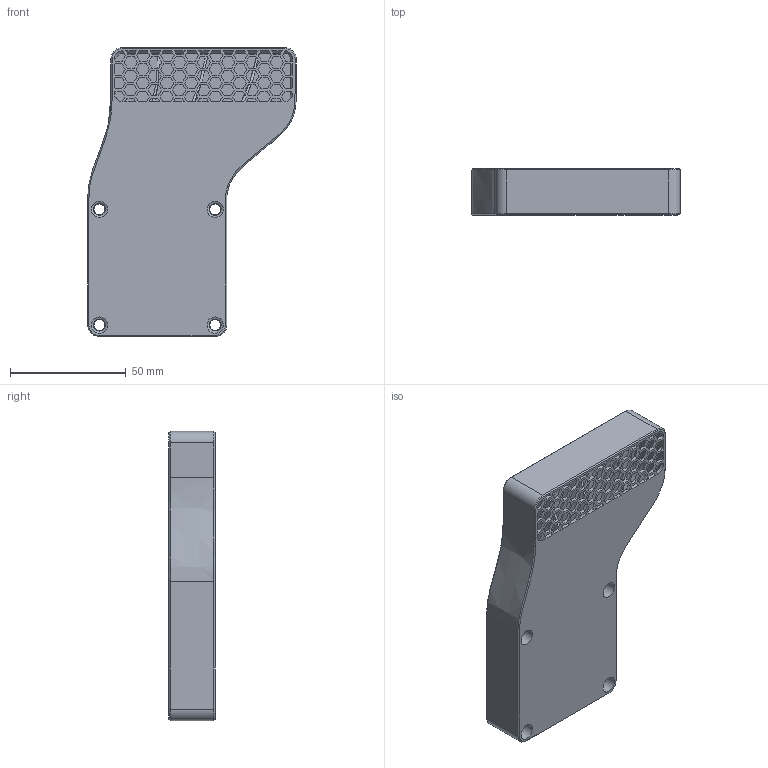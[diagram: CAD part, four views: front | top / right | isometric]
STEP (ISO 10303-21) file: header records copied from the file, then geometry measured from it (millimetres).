
FILE_DESCRIPTION(/* description */ (''),/* implementation_level */ '2;1');
FILE_NAME(/* name */ 'vent chanel K1 v2.step',/* time_stamp */ '2024-01-24T22:32:42+05:00',/* author */ (''),/* organization */ (''),/* preprocessor_version */ 'ST-DEVELOPER v20',/* originating_system */ 'Autodesk Translation Framework v12.14.0.127',/* authorisation */ '');
FILE_SCHEMA (('AUTOMOTIVE_DESIGN { 1 0 10303 214 3 1 1 }'));
Length unit declared in the file: millimetre
Products named in the file (1): vent chanel K1
Bounding box: 90 x 20 x 125 mm (x, y, z)
Volume: 43443.9 mm3; surface area: 45869.1 mm2
Topology: 1 solids, 1 shells, 445 faces, 1343 edges, 882 vertices
Faces by surface type: plane 394, cylinder 19, bspline 16, cone 16
Full cylindrical faces by diameter (mm): 4.7 x4, 7 x4, 55 x1
Entity records: 15958 total; most frequent: CARTESIAN_POINT 3698, ORIENTED_EDGE 2686, DIRECTION 2217, EDGE_CURVE 1343, LINE 1235, VECTOR 1235, VERTEX_POINT 882, EDGE_LOOP 575
